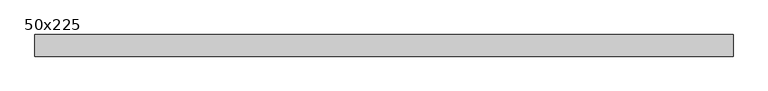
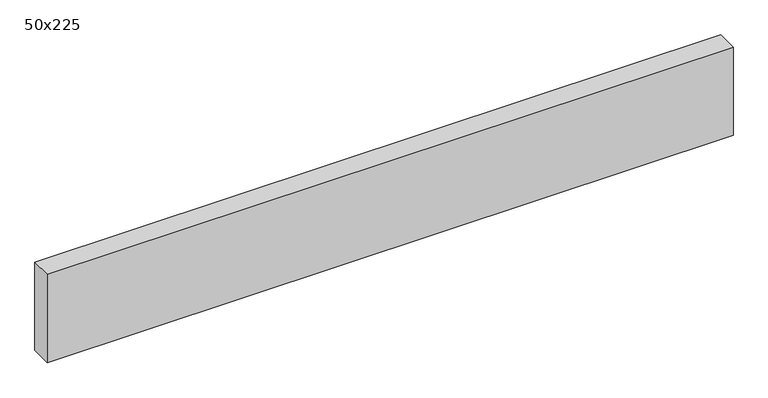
"""IFC4 building model written with IfcOpenShell, lengths in millimetres: beam geometry, Graded Timber : 50x225."""

from ifc_helpers import new_model, si_unit, frame, origin, place, context, project, spatial, polyline, outline, extrude, source, transform, mapped, element, save


def beam_50x225_ca9e52d7(model_context):
    return source(origin(), model_context, "Body", "SweptSolid", [
        extrude(outline(polyline([(807.5, 25.0), (807.5, -25.0), (-807.5, -25.0), (-807.5, 25.0), (807.5, 25.0)])), frame((0.0, 0.0, -110.0), z_axis=(0.0, 0.0, 1.0), x_axis=(1.0, 0.0, 0.0)), (0.0, 0.0, 1.0), 220.0),
    ])


if __name__ == "__main__":
    model = new_model("IFC4")
    model_context = context("Model", 3, world=origin())
    ifc_project = project(units=[si_unit("LENGTHUNIT", "METRE", prefix="MILLI")], contexts=[model_context])
    site = spatial("IfcSite", under=ifc_project)
    building = spatial("IfcBuilding", under=site)
    placement = place(None, origin())
    beam_50x225_shape = beam_50x225_ca9e52d7(model_context)
    element("IfcBeam", 1, ObjectType="Graded Timber : 50x225", at=placement, inside=building, context=model_context, shape_type="MappedRepresentation", body=[
        mapped(beam_50x225_shape, transform((0.0, 0.0, 0.0), x_axis=(1.0, 0.0, 0.0), y_axis=(0.0, 1.0, 0.0), z_axis=(0.0, 0.0, 1.0))),
    ])
    save(model, "model.ifc")
